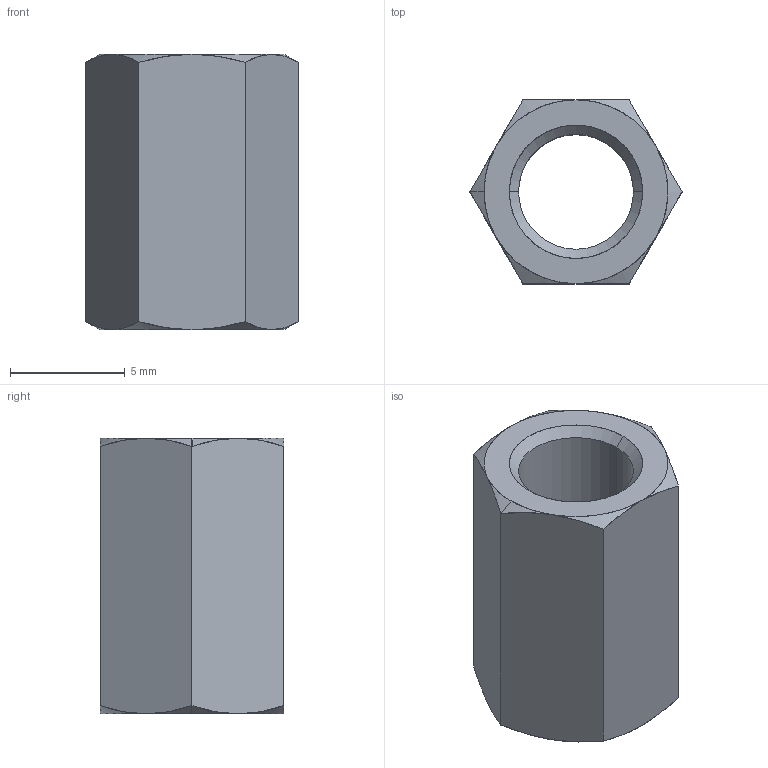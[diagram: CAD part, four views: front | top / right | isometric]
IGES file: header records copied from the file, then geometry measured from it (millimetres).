
Start section: SolidWorks IGES file using analytic representation for surfaces
Global section: file name: C:\Users\ianosborn\Desktop\N0503.NP_v2\N0503.NP_v2_20250227_IGES\N0503.050-012-NP.igs; native system: SolidWorks 2019; preprocessor: SolidWorks 2019; author: IanOsborn; date: 250227.144405; units: millimetre
Bounding box: 9.24 x 8 x 12 mm (x, y, z)
Surface area: 580.5 mm2 (no closed solid volume)
Topology: 0 solids, 0 shells, 28 faces, 286 edges, 286 vertices
Faces by surface type: revolution 20, bspline 8
